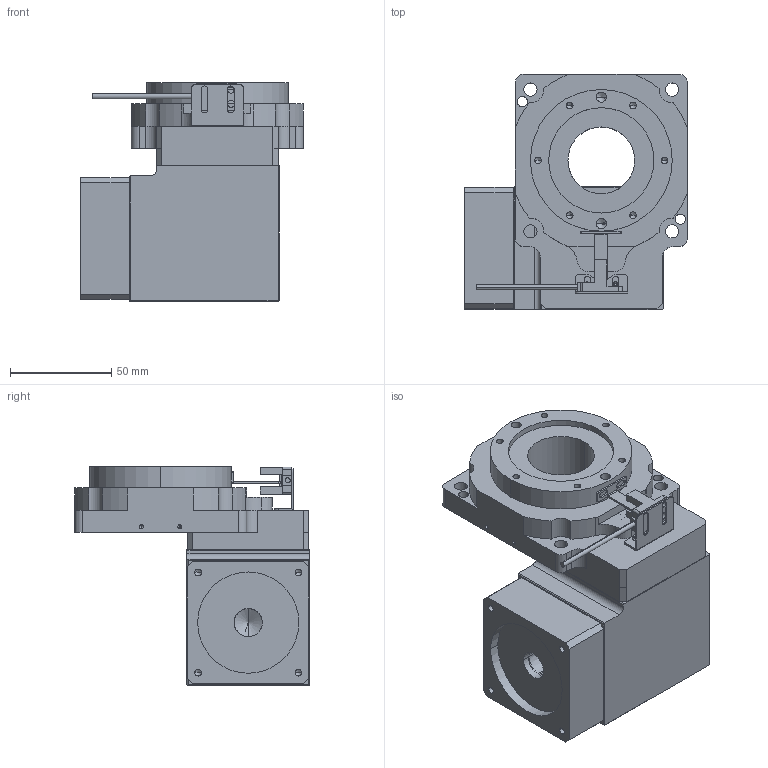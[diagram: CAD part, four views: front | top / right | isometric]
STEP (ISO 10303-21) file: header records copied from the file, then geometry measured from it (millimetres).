
FILE_DESCRIPTION (( 'STEP AP203' ), '1' );
FILE_NAME ('RTR85-20K-30K-14-50-70-M4(×ó·½Ïò).STEP', '2024-05-21T10:54:16', ( '' ), ( '' ), 'SwSTEP 2.0', 'SolidWorks 2023', '' );
FILE_SCHEMA (( 'CONFIG_CONTROL_DESIGN' ));
Length unit declared in the file: millimetre
Products named in the file (1): RTR85-20K-30K-14-50-70-M4(左方向)
Bounding box: 110 x 116.05 x 108 mm (x, y, z)
Volume: 526771.3 mm3; surface area: 143268.9 mm2
Topology: 41 solids, 47 shells, 1367 faces, 3824 edges, 2258 vertices
Faces by surface type: cylinder 376, plane 263, cone 241, torus 222, sphere 212, bspline 53
Entity records: 51451 total; most frequent: CARTESIAN_POINT 19446, ORIENTED_EDGE 6864, DIRECTION 6578, EDGE_CURVE 3432, AXIS2_PLACEMENT_3D 2766, VERTEX_POINT 2152, EDGE_LOOP 1510, CIRCLE 1451
